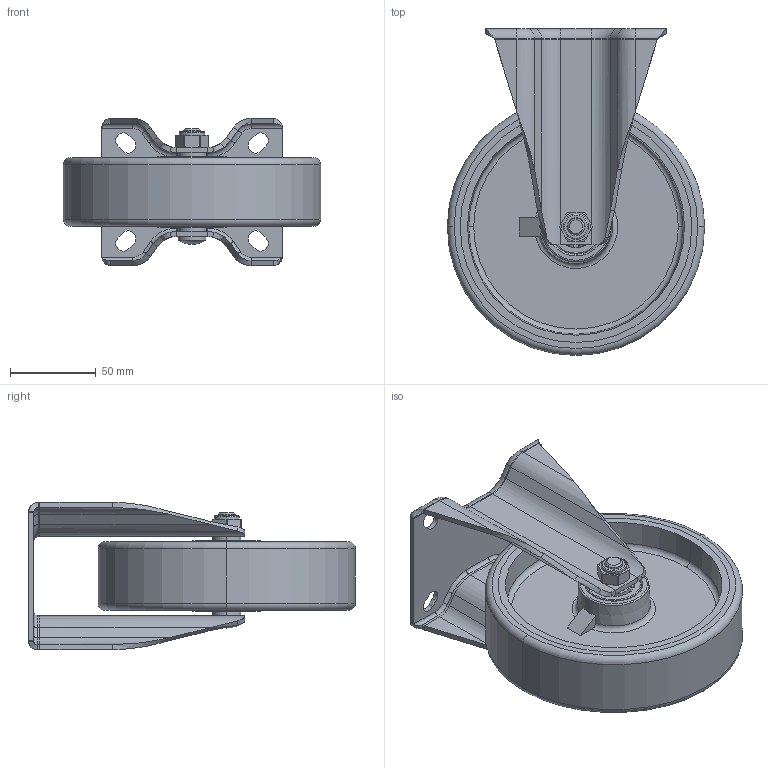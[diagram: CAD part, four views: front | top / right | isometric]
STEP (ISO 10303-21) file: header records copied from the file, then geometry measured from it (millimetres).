
FILE_DESCRIPTION((''),'2;1');
FILE_NAME('66106_ASM','2024-04-27T',('Lenovo'),(''),'PRO/ENGINEER BY PARAMETRIC TECHNOLOGY CORPORATION, 2010280','PRO/ENGINEER BY PARAMETRIC TECHNOLOGY CORPORATION, 2010280','');
FILE_SCHEMA(('CONFIG_CONTROL_DESIGN'));
Length unit declared in the file: millimetre
Products named in the file (9): 646-10; 676-986A; 6201; 500-66; 630-54A; 676-86A_ASM; 630-33A; 630-34; 66106_ASM
Assembly tree (10 placements, depth 3):
  66106_ASM
    646-10
    676-86A_ASM
      676-986A
      6201  x2
      500-66  x2
      630-54A
    630-33A
    630-34
Bounding box: 150 x 190.5 x 85.97 mm (x, y, z)
Volume: 263225.1 mm3; surface area: 173895.7 mm2
Topology: 37 solids, 38 shells, 409 faces, 938 edges, 507 vertices
Faces by surface type: cylinder 130, plane 118, torus 61, sphere 54, cone 30, bspline 16
Entity records: 10331 total; most frequent: CARTESIAN_POINT 2478, DIRECTION 1741, ORIENTED_EDGE 1476, EDGE_CURVE 738, AXIS2_PLACEMENT_3D 705, VERTEX_POINT 441, EDGE_LOOP 383, FACE_OUTER_BOUND 349
